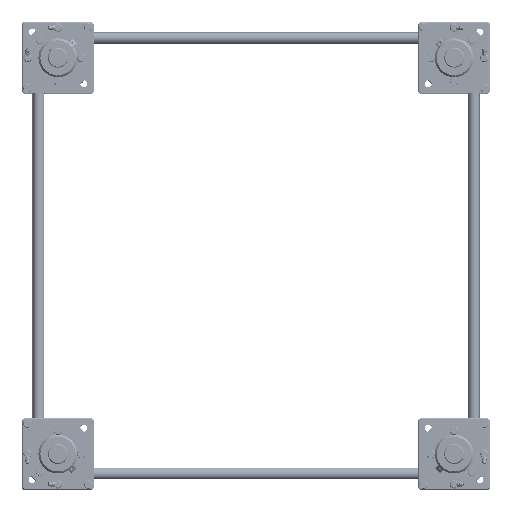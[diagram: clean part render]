
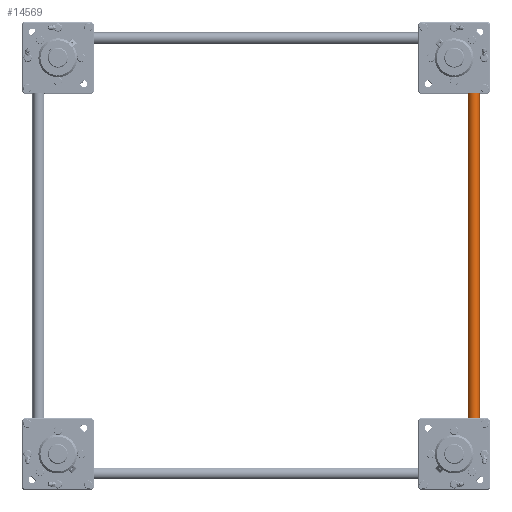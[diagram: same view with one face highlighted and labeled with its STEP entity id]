
A CAD part, top view. The second image highlights one B-rep face of the part: STEP entity #14569.
In plain terms, the highlighted cylindrical face has radius 7.5 mm (diameter 15 mm), a full revolution.
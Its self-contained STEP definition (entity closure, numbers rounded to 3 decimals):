
#14569=ADVANCED_FACE('',(#33473,#33474),#33475,.T.);
#33473=FACE_OUTER_BOUND('',#53672,.T.);
#33474=FACE_OUTER_BOUND('',#53673,.T.);
#33475=CYLINDRICAL_SURFACE('',#53674,7.5);
#53672=EDGE_LOOP('',(#128978));
#53673=EDGE_LOOP('',(#128979));
#53674=AXIS2_PLACEMENT_3D('',#128980,#128981,#128982);
#128978=ORIENTED_EDGE('',*,*,#153189,.T.);
#128979=ORIENTED_EDGE('',*,*,#153186,.T.);
#128980=CARTESIAN_POINT('',(0.0,0.0,532.0));
#128981=DIRECTION('',(0.0,0.0,-1.0));
#128982=DIRECTION('',(-1.0,0.0,0.0));
#153186=EDGE_CURVE('',#193586,#193586,#193587,.F.);
#153189=EDGE_CURVE('',#193592,#193592,#193593,.T.);
#193586=VERTEX_POINT('',#261826);
#193587=CIRCLE('',#261827,7.5);
#193592=VERTEX_POINT('',#261832);
#193593=CIRCLE('',#261833,7.5);
#261826=CARTESIAN_POINT('',(7.5,0.0,531.5));
#261827=AXIS2_PLACEMENT_3D('',#289118,#289119,#289120);
#261832=CARTESIAN_POINT('',(7.5,0.0,0.5));
#261833=AXIS2_PLACEMENT_3D('',#289127,#289128,#289129);
#289118=CARTESIAN_POINT('',(0.0,0.0,531.5));
#289119=DIRECTION('',(0.0,0.0,1.0));
#289120=DIRECTION('',(1.0,0.0,0.0));
#289127=CARTESIAN_POINT('',(0.0,0.0,0.5));
#289128=DIRECTION('',(0.0,0.0,1.0));
#289129=DIRECTION('',(1.0,0.0,0.0));
